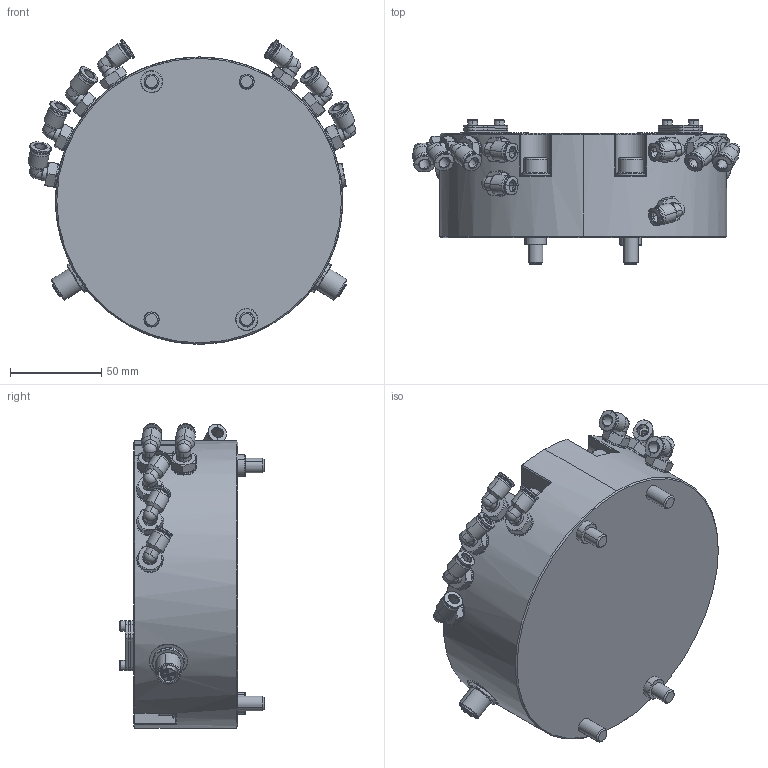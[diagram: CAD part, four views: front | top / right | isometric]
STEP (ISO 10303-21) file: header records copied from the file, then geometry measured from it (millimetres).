
FILE_DESCRIPTION (( 'STEP AP214' ), '1' );
FILE_NAME ('64266.STEP', '2020-06-17T11:36:04', ( '' ), ( '' ), 'SwSTEP 2.0', 'SolidWorks 2019', '' );
FILE_SCHEMA (( 'AUTOMOTIVE_DESIGN' ));
Length unit declared in the file: millimetre
Products named in the file (2): 64266
Bounding box: 179 x 78.9 x 166.38 mm (x, y, z)
Volume: 1069631.7 mm3; surface area: 127976.7 mm2
Topology: 41 solids, 41 shells, 2097 faces, 4795 edges, 2879 vertices
Faces by surface type: cylinder 697, cone 570, plane 554, torus 191, bspline 58, sphere 27
Entity records: 86766 total; most frequent: CARTESIAN_POINT 15964, DIRECTION 10476, ORIENTED_EDGE 9440, EDGE_CURVE 4720, AXIS2_PLACEMENT_3D 4367, VERTEX_POINT 2879, EDGE_LOOP 2381, CIRCLE 2326
